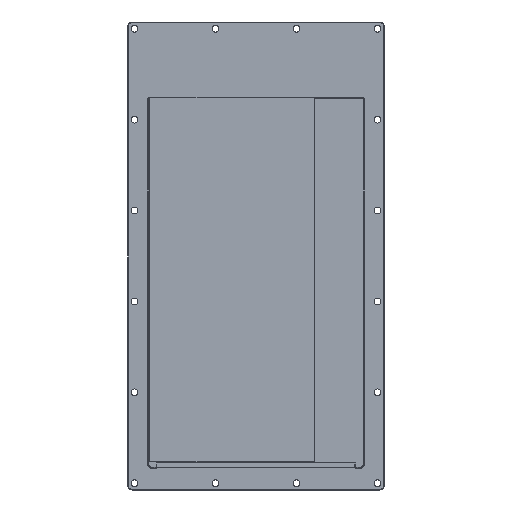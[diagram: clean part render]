
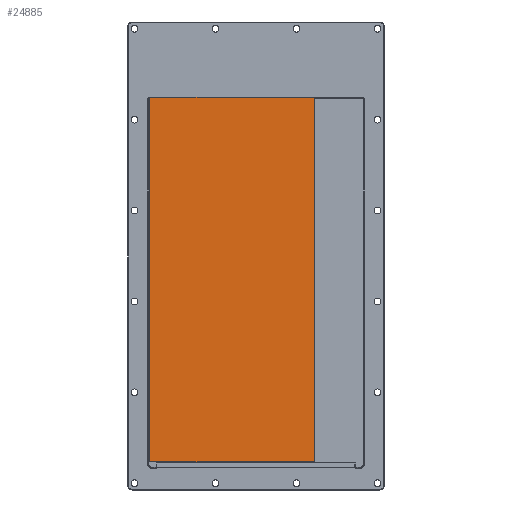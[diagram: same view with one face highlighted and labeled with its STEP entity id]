
A CAD part, front view. The second image highlights one B-rep face of the part: STEP entity #24885.
In plain terms, the highlighted planar face has unit normal (0, -1, 0).
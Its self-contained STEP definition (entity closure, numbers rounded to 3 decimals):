
#5000 = AXIS2_PLACEMENT_3D ( 'NONE', #47076, #84423, #63084 ) ;
#9752 = CARTESIAN_POINT ( 'NONE',  ( -91.5, -15.5, -173.5 ) ) ;
#11611 = EDGE_CURVE ( 'NONE', #26075, #53369, #83425, .T. ) ;
#15028 = VECTOR ( 'NONE', #95061, 1000. ) ;
#16539 = DIRECTION ( 'NONE',  ( 1., 0., 0. ) ) ;
#17581 = VECTOR ( 'NONE', #32952, 1000. ) ;
#20611 = ORIENTED_EDGE ( 'NONE', *, *, #11611, .T. ) ;
#23885 = CARTESIAN_POINT ( 'NONE',  ( 91.5, -15.5, 231.5 ) ) ;
#24885 = ADVANCED_FACE ( 'NONE', ( #47561 ), #55831, .F. ) ;
#25757 = LINE ( 'NONE', #91266, #46816 ) ;
#26075 = VERTEX_POINT ( 'NONE', #85300 ) ;
#32952 = DIRECTION ( 'NONE',  ( 0., 0., -1. ) ) ;
#41626 = VERTEX_POINT ( 'NONE', #44609 ) ;
#44070 = LINE ( 'NONE', #81413, #15028 ) ;
#44609 = CARTESIAN_POINT ( 'NONE',  ( 91.5, -15.5, -173.5 ) ) ;
#46816 = VECTOR ( 'NONE', #16539, 1000. ) ;
#47076 = CARTESIAN_POINT ( 'NONE',  ( 0., -15.5, 0. ) ) ;
#47561 = FACE_OUTER_BOUND ( 'NONE', #66176, .T. ) ;
#52292 = CARTESIAN_POINT ( 'NONE',  ( 91.5, -15.5, 231.5 ) ) ;
#53369 = VERTEX_POINT ( 'NONE', #9752 ) ;
#55831 = PLANE ( 'NONE',  #5000 ) ;
#60057 = ORIENTED_EDGE ( 'NONE', *, *, #79213, .T. ) ;
#62929 = EDGE_CURVE ( 'NONE', #53369, #41626, #25757, .T. ) ;
#63040 = ORIENTED_EDGE ( 'NONE', *, *, #62929, .T. ) ;
#63084 = DIRECTION ( 'NONE',  ( 0., 0., 1. ) ) ;
#66176 = EDGE_LOOP ( 'NONE', ( #60057, #83211, #20611, #63040 ) ) ;
#69328 = CARTESIAN_POINT ( 'NONE',  ( -91.5, -15.5, 231.5 ) ) ;
#69429 = EDGE_CURVE ( 'NONE', #74586, #26075, #44070, .T. ) ;
#74586 = VERTEX_POINT ( 'NONE', #23885 ) ;
#79213 = EDGE_CURVE ( 'NONE', #41626, #74586, #89143, .T. ) ;
#81413 = CARTESIAN_POINT ( 'NONE',  ( 91.5, -15.5, 231.5 ) ) ;
#81864 = DIRECTION ( 'NONE',  ( 0., 0., 1. ) ) ;
#83211 = ORIENTED_EDGE ( 'NONE', *, *, #69429, .T. ) ;
#83425 = LINE ( 'NONE', #69328, #17581 ) ;
#84423 = DIRECTION ( 'NONE',  ( 0., 1., 0. ) ) ;
#85300 = CARTESIAN_POINT ( 'NONE',  ( -91.5, -15.5, 231.5 ) ) ;
#86604 = VECTOR ( 'NONE', #81864, 1000. ) ;
#89143 = LINE ( 'NONE', #52292, #86604 ) ;
#91266 = CARTESIAN_POINT ( 'NONE',  ( 91.5, -15.5, -173.5 ) ) ;
#95061 = DIRECTION ( 'NONE',  ( -1., 0., 0. ) ) ;
